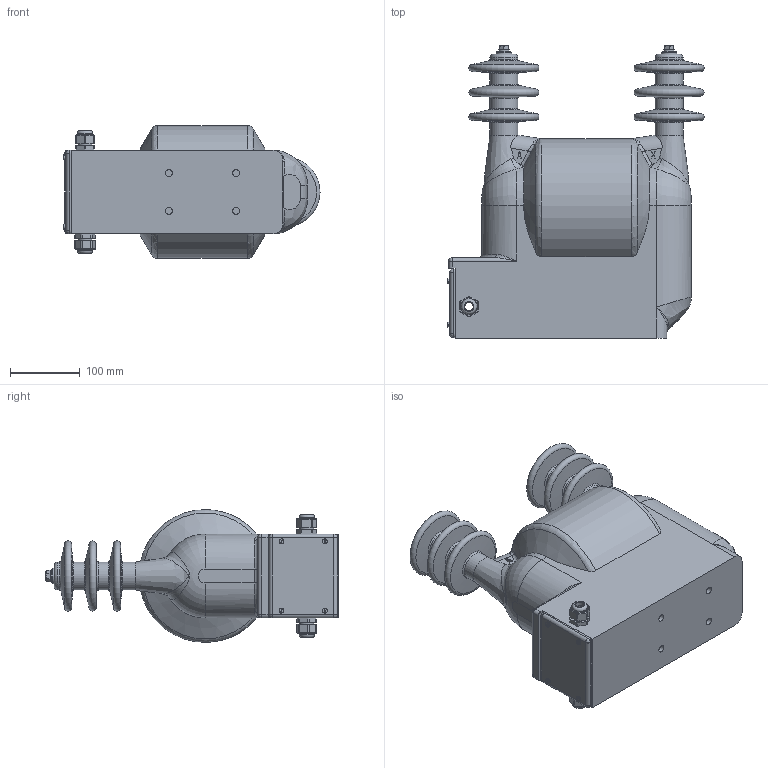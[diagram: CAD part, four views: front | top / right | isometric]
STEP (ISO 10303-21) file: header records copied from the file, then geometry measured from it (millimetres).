
FILE_DESCRIPTION(('STEP AP214'), '1');
FILE_NAME('ﾍﾎﾋ-ﾍﾒﾇ-3(6,10)-IV ﾓﾕﾋ1, ﾒ1', '2019-05-21T12:19:18', ('UNSPECIFIED'), ('UNSPECIFIED'), 'ASCON STEP Converter 1.3', 'ASCON Math Kernel', '');
FILE_SCHEMA(('AUTOMOTIVE_DESIGN { 1 0 10303 214 3 1 1}'));
Length unit declared in the file: millimetre
Products named in the file (10): 1; 3; 4; 5; 2
Assembly tree (16 placements, depth 3):
  1
    (unnamed)  x2
    (unnamed)  x2
    (unnamed)  x2
    1
      3
      4  x2
      5  x4
      (unnamed)
    2
Bounding box: 366.16 x 418 x 189.97 mm (x, y, z)
Volume: 11326530.6 mm3; surface area: 469749.6 mm2
Topology: 14 solids, 14 shells, 599 faces, 1448 edges, 906 vertices
Faces by surface type: cylinder 243, plane 222, torus 54, bspline 44, cone 30, sphere 6
Full cylindrical faces by diameter (mm): 4 x4, 5 x12, 7 x4, 8.38 x2, 10 x10, 11 x2, 12 x2, 17 x2, 20 x8, 22 x4, 40 x8
Entity records: 22434 total; most frequent: CARTESIAN_POINT 6813, DIRECTION 2364, ORIENTED_EDGE 2198, EDGE_CURVE 1099, AXIS2_PLACEMENT_3D 945, VERTEX_POINT 746, EDGE_LOOP 615, COLOUR_RGB 490
